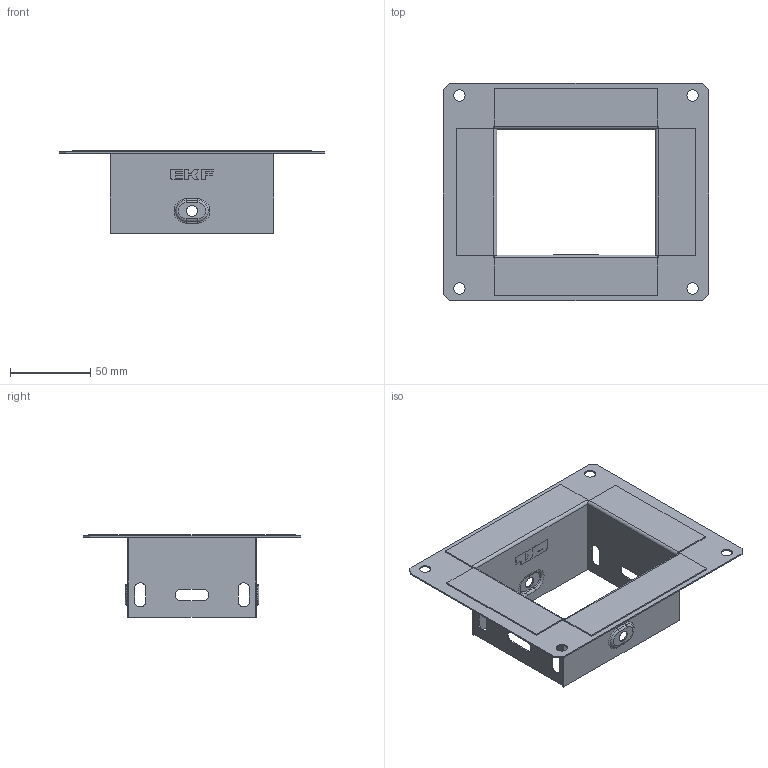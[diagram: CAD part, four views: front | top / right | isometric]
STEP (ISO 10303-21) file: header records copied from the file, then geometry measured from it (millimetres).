
FILE_DESCRIPTION (( 'STEP AP203' ), '1' );
FILE_NAME ('f80100_捘.STEP', '2020-01-23T12:26:56', ( '' ), ( '' ), 'SwSTEP 2.0', 'SolidWorks 2016', '' );
FILE_SCHEMA (( 'CONFIG_CONTROL_DESIGN' ));
Length unit declared in the file: millimetre
Products named in the file (9): f80100_3; f80100_1; f35100_2; f80100_捘
Assembly tree (5 placements, depth 2):
  f80100_3
  f80100_3
  f80100_捘
    f80100_1
    f35100_2  x2
    f80100_3  x2
  f80100_1
  f35100_2
Bounding box: 165 x 135 x 51.5 mm (x, y, z)
Volume: 32079.1 mm3; surface area: 82323.1 mm2
Topology: 5 solids, 5 shells, 314 faces, 816 edges, 528 vertices
Faces by surface type: plane 216, cylinder 64, bspline 18, torus 16
Entity records: 6402 total; most frequent: CARTESIAN_POINT 1382, ORIENTED_EDGE 876, DIRECTION 840, EDGE_CURVE 438, VECTOR 336, LINE 336, VERTEX_POINT 284, AXIS2_PLACEMENT_3D 252
